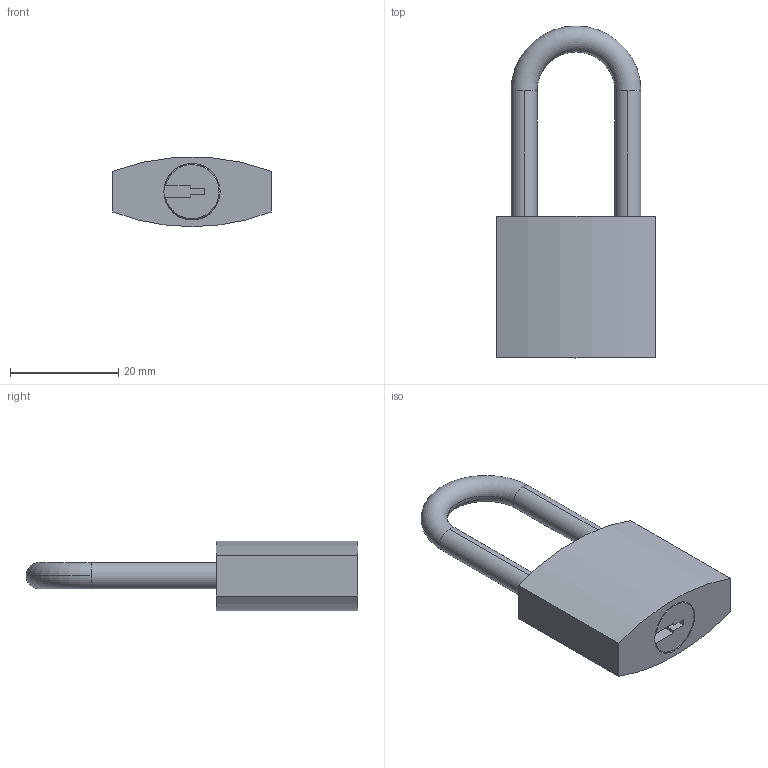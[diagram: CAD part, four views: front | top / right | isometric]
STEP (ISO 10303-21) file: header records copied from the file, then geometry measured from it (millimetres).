
FILE_DESCRIPTION (( 'STEP AP214' ), '1' );
FILE_NAME ('ELN-1010-30.STEP', '2016-01-28T17:34:14', ( '' ), ( '' ), 'SwSTEP 2.0', 'SolidWorks 2012', '' );
FILE_SCHEMA (( 'AUTOMOTIVE_DESIGN' ));
Length unit declared in the file: millimetre
Products named in the file (1): ELN-1010-30
Bounding box: 29.3 x 61.3 x 12.79 mm (x, y, z)
Volume: 9879.4 mm3; surface area: 3796.1 mm2
Topology: 1 solids, 1 shells, 25 faces, 66 edges, 44 vertices
Faces by surface type: plane 13, cylinder 9, torus 2, cone 1
Entity records: 827 total; most frequent: DIRECTION 143, CARTESIAN_POINT 142, ORIENTED_EDGE 132, EDGE_CURVE 66, AXIS2_PLACEMENT_3D 53, VERTEX_POINT 44, VECTOR 37, LINE 37
